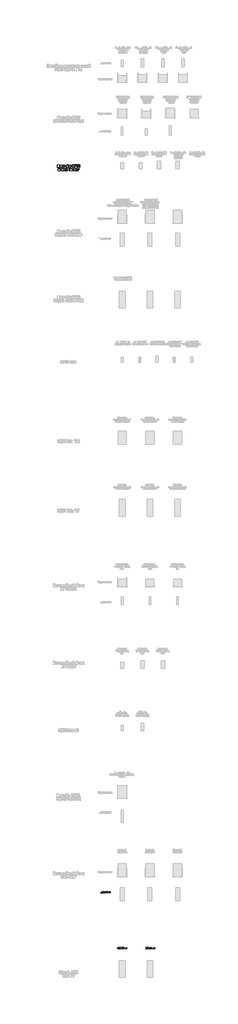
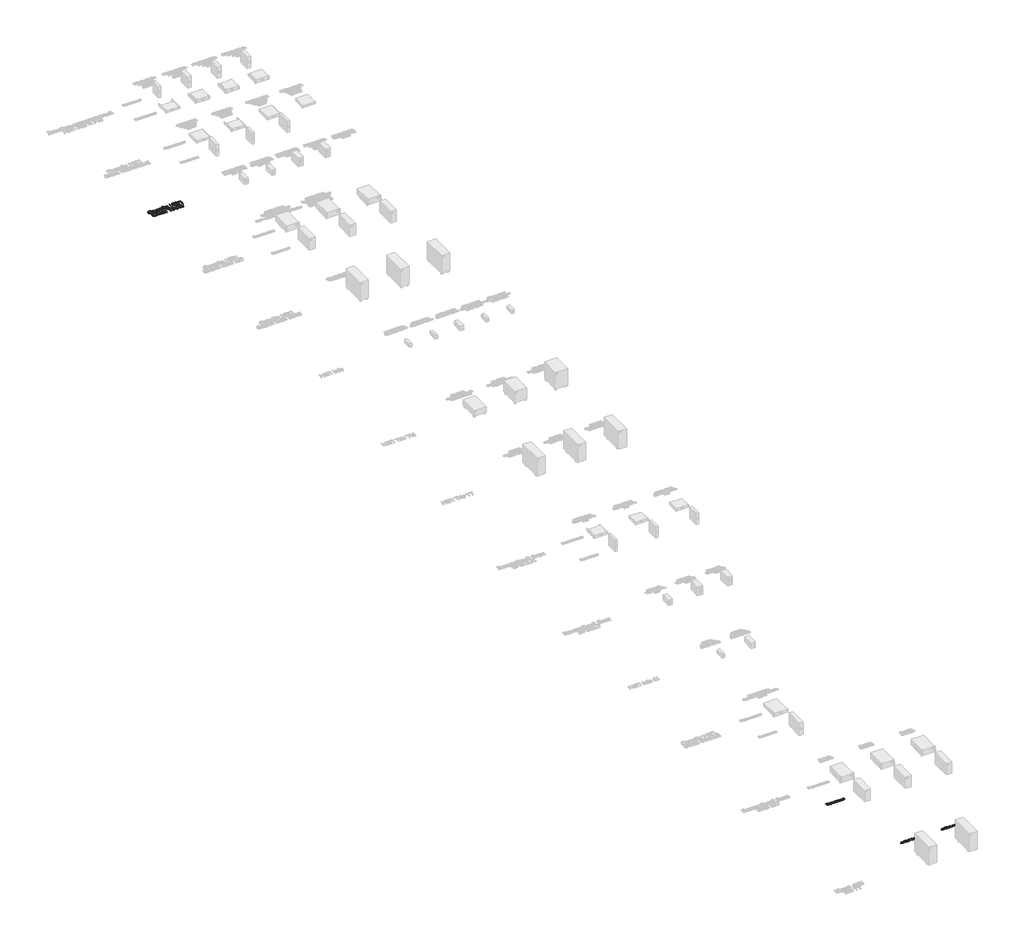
# One storey, part 9 of 74: 4 proxies.
"""IFC4 building model written with IfcOpenShell, lengths in millimetres."""

from ifc_helpers import new_model, si_unit, origin, origin_with_axes, place, context, project, spatial, polyline, outline, extrude, element, save

model = new_model("IFC4")

# Units and contexts
model_context = context("Model", 3, world=origin())
ifc_project = project(units=[si_unit("LENGTHUNIT", "METRE", prefix="MILLI")], contexts=[model_context])

# Site, building, storey
site = spatial("IfcSite", under=ifc_project)
building = spatial("IfcBuilding", under=site)
storey = spatial("IfcBuildingStorey", under=building, Name="Этаж 01", Elevation=0.0)

# Proxies
placement = place(None, origin())
element("IfcBuildingElementProxy", 1, Name="150 мм Arial", ObjectType="150 мм Arial", at=placement, inside=storey, context=model_context, shape_type="SweptSolid", body=[
    extrude(outline(polyline([(-2176.9010237, -1437.4852389), (-2171.8794345, -1404.1643271), (-2165.6024479, -1390.5457955), (-2156.8146668, -1378.9552134), (-2133.812845, -1363.0903024), (-2104.9800937, -1357.8019987), (-2085.2156335, -1360.2852022), (-2067.4929184, -1367.7348126), (-2052.7776386, -1379.6265981), (-2042.0354843, -1395.4363268), (-2035.4687907, -1414.4006437), (-2033.2798928, -1435.7561935), (-2035.5837538, -1457.3968519), (-2042.4953368, -1476.6278831), (-2053.6329642, -1492.465203), (-2068.6149584, -1503.9247272), (-2086.1859222, -1510.8776969), (-2105.0904583, -1513.1953535), (-2125.1584211, -1510.6339751), (-2142.9823038, -1502.9498399), (-2157.6607954, -1490.8373252), (-2168.292585, -1474.9908083), (-2174.7489141, -1456.7576569), (-2176.9010237, -1437.4852389)]), holes=[polyline([(-2158.0654656, -1437.6691799), (-2154.2992736, -1461.2412187), (-2143.0006979, -1479.2030571), (-2126.0183453, -1490.5706108), (-2105.2008229, -1494.3597953), (-2084.0797978, -1490.5338226), (-2067.0698541, -1479.0559043), (-2055.8540517, -1460.5422429), (-2052.115451, -1435.6090407), (-2053.7157376, -1418.9347893), (-2058.5165977, -1404.5230121), (-2066.3938709, -1392.7369927), (-2077.2233971, -1383.9400145), (-2090.2878065, -1378.4631713), (-2104.8697291, -1376.6375569), (-2125.13083, -1380.1554284), (-2142.3569044, -1390.7090432), (-2154.1383253, -1409.4848205), (-2158.0654656, -1437.6691799)])]), origin_with_axes(), (0.0, 0.0, 1.0), 20.0),
    extrude(outline(polyline([(-2009.7354451, -1400.1820046), (-1990.899887, -1400.1820046), (-1990.899887, -1442.5620104), (-1941.4565468, -1442.5620104), (-1941.4565468, -1400.1820046), (-1922.6209887, -1400.1820046), (-1922.6209887, -1510.8409087), (-1941.4565468, -1510.8409087), (-1941.4565468, -1461.3975685), (-1990.899887, -1461.3975685), (-1990.899887, -1510.8409087), (-2009.7354451, -1510.8409087), (-2009.7354451, -1400.1820046)])), origin_with_axes(), (0.0, 0.0, 1.0), 20.0),
    extrude(outline(polyline([(-1884.9498724, -1400.1820046), (-1800.1898607, -1400.1820046), (-1800.1898607, -1510.7305441), (-1819.0254188, -1510.7305441), (-1819.0254188, -1419.0175627), (-1866.1143142, -1419.0175627), (-1866.1143142, -1471.808629), (-1867.3835071, -1496.1624171), (-1874.3548709, -1506.4447189), (-1890.8359843, -1510.8409087), (-1906.1398753, -1509.8844155), (-1906.1398753, -1492.0053505), (-1897.7153776, -1492.0053505), (-1889.1989094, -1490.8465223), (-1885.7960009, -1487.1677023), (-1884.9498724, -1470.7417712), (-1884.9498724, -1400.1820046)])), origin_with_axes(), (0.0, 0.0, 1.0), 20.0),
    extrude(outline(polyline([(-1701.3031804, -1496.7142401), (-1719.5685214, -1509.4797453), (-1739.7468489, -1513.1953535), (-1755.4875997, -1510.9604703), (-1767.0988752, -1504.255821), (-1774.2587785, -1494.0746868), (-1776.645413, -1481.4103491), (-1773.0401694, -1466.5111283), (-1763.567208, -1455.6953976), (-1750.3786385, -1449.5149801), (-1734.0814661, -1446.6822887), (-1701.413545, -1440.2075656), (-1701.3031804, -1436.0137109), (-1702.5999644, -1427.6076073), (-1706.4903165, -1422.1077715), (-1715.1907257, -1418.0242813), (-1727.3124374, -1416.6631179), (-1746.3687248, -1420.2867556), (-1755.45541, -1433.1442313), (-1774.2909682, -1430.7897866), (-1766.142382, -1412.3956868), (-1749.734845, -1401.6167443), (-1724.8844163, -1397.8275598), (-1702.0573385, -1401.1752859), (-1689.1630745, -1409.5813895), (-1683.3873272, -1422.3652889), (-1682.4676222, -1438.8464022), (-1682.4676222, -1462.2804853), (-1681.511129, -1495.0035888), (-1677.7587327, -1510.8409087), (-1696.5942908, -1510.8409087), (-1701.3031804, -1496.7142401)]), holes=[polyline([(-1701.3031804, -1459.0431238), (-1731.6902332, -1464.8188711), (-1747.895435, -1467.8722917), (-1755.2346809, -1472.8386986), (-1757.8098548, -1480.0859739), (-1752.1996544, -1490.2763052), (-1735.7369351, -1494.3597953), (-1716.6806478, -1489.8532409), (-1704.3933891, -1478.9455397), (-1701.413545, -1464.3774127), (-1701.3031804, -1459.0431238)])]), origin_with_axes(), (0.0, 0.0, 1.0), 20.0),
    extrude(outline(polyline([(-1656.5687297, -1400.1820046), (-1637.7331716, -1400.1820046), (-1637.7331716, -1484.5741342), (-1591.4536166, -1400.1820046), (-1567.0998285, -1400.1820046), (-1567.0998285, -1510.8409087), (-1585.9353867, -1510.8409087), (-1585.9353867, -1426.9638138), (-1631.9206361, -1510.8409087), (-1656.5687297, -1510.8409087), (-1656.5687297, -1400.1820046)])), origin_with_axes(), (0.0, 0.0, 1.0), 20.0),
    extrude(outline(polyline([(-1595.3531657, -1360.1564435), (-1581.2264971, -1360.1564435), (-1584.2661221, -1372.2183744), (-1590.3683647, -1381.1073231), (-1599.2573134, -1386.5841663), (-1610.6570567, -1388.4097807), (-1623.0270888, -1386.5979619), (-1632.6196119, -1381.1625054), (-1639.1771084, -1372.2873523), (-1642.4420611, -1360.1564435), (-1628.3153925, -1360.1564435), (-1623.0178918, -1370.769839), (-1612.3493139, -1374.2831121), (-1600.6506665, -1370.8802036), (-1595.3531657, -1360.1564435)])), origin_with_axes(), (0.0, 0.0, 1.0), 20.0),
    extrude(outline(polyline([(-1538.8464913, -1400.1820046), (-1520.0109331, -1400.1820046), (-1520.0109331, -1442.5620104), (-1470.567593, -1442.5620104), (-1470.567593, -1400.1820046), (-1451.7320348, -1400.1820046), (-1451.7320348, -1510.8409087), (-1470.567593, -1510.8409087), (-1470.567593, -1461.3975685), (-1520.0109331, -1461.3975685), (-1520.0109331, -1510.8409087), (-1538.8464913, -1510.8409087), (-1538.8464913, -1400.1820046)])), origin_with_axes(), (0.0, 0.0, 1.0), 20.0),
    extrude(outline(polyline([(-1362.2631336, -1360.1564435), (-1343.4275755, -1360.1564435), (-1343.4275755, -1479.4973627), (-1264.5536757, -1360.1564435), (-1244.5408951, -1360.1564435), (-1244.5408951, -1510.8409087), (-1263.3764533, -1510.8409087), (-1263.3764533, -1391.8310833), (-1342.0664121, -1510.8409087), (-1362.2631336, -1510.8409087), (-1362.2631336, -1360.1564435)])), origin_with_axes(), (0.0, 0.0, 1.0), 20.0),
    extrude(outline(polyline([(-1211.5786684, -1360.1564435), (-1117.4008776, -1360.1564435), (-1117.4008776, -1378.9920016), (-1192.7431102, -1378.9920016), (-1192.7431102, -1423.7264522), (-1157.4632269, -1423.7264522), (-1126.3771983, -1427.552425), (-1115.9753349, -1433.079852), (-1107.8727339, -1442.0101874), (-1102.6580067, -1453.5064998), (-1100.9197642, -1466.7318575), (-1105.8677771, -1488.1977719), (-1120.6382392, -1504.5133384), (-1133.9095821, -1509.2590161), (-1154.0787125, -1510.8409087), (-1211.5786684, -1510.8409087), (-1211.5786684, -1360.1564435)]), holes=[polyline([(-1192.7431102, -1492.0053505), (-1152.3864554, -1492.0053505), (-1138.121831, -1490.4510491), (-1127.9223027, -1485.7881448), (-1121.7970675, -1478.0166377), (-1119.7553224, -1467.1365277), (-1124.4274237, -1452.3844597), (-1137.4320523, -1444.511785), (-1165.8141482, -1442.5620104), (-1192.7431102, -1442.5620104), (-1192.7431102, -1492.0053505)])]), origin_with_axes(), (0.0, 0.0, 1.0), 20.0),
    extrude(outline(polyline([(-1075.0208718, -1360.1564435), (-957.2986333, -1360.1564435), (-957.2986333, -1510.8409087), (-976.1341915, -1510.8409087), (-976.1341915, -1378.9920016), (-1056.1853136, -1378.9920016), (-1056.1853136, -1510.8409087), (-1075.0208718, -1510.8409087), (-1075.0208718, -1360.1564435)])), origin_with_axes(), (0.0, 0.0, 1.0), 20.0),
    extrude(outline(polyline([(-2133.3437955, -1642.0053505), (-2114.5082373, -1642.0053505), (-2108.4381844, -1660.8593028), (-2093.61254, -1672.7786794), (-2071.0245855, -1677.3220221), (-2051.3428988, -1673.8823254), (-2038.6325758, -1664.4277582), (-2034.4571152, -1651.7910116), (-2037.5841122, -1640.0371819), (-2050.3864056, -1631.4839255), (-2077.8120083, -1624.2918325), (-2107.3345384, -1615.0028121), (-2123.3557993, -1600.9865081), (-2128.634906, -1582.2613145), (-2127.0024296, -1571.2294532), (-2122.1050005, -1560.9425529), (-2114.0713775, -1552.2237496), (-2103.0303191, -1545.8961793), (-2075.1080757, -1540.7642255), (-2045.309634, -1546.1353026), (-2033.8868981, -1552.7663756), (-2025.4440063, -1561.9174402), (-2020.1005203, -1573.0182794), (-2017.9760018, -1585.4986761), (-2036.81156, -1585.4986761), (-2040.2696507, -1574.2598811), (-2047.4801378, -1566.1480831), (-2058.7465239, -1561.2368585), (-2074.3723117, -1559.5997836), (-2090.3659814, -1561.2184644), (-2101.3380619, -1566.0745067), (-2107.6840263, -1573.2206145), (-2109.7993478, -1581.7094915), (-2108.3002287, -1588.9475698), (-2103.8028713, -1594.7693024), (-2073.0479365, -1605.2907274), (-2039.7178277, -1614.7452947), (-2028.980272, -1621.5787028), (-2021.4892749, -1630.0123975), (-2017.0884865, -1639.9544084), (-2015.621557, -1651.312765), (-2017.3092157, -1662.9240405), (-2022.3721917, -1673.8455372), (-2030.6035513, -1683.2449222), (-2041.796361, -1690.2898624), (-2055.2562435, -1694.6906508), (-2070.2888215, -1696.1575802), (-2088.7427021, -1694.5756877), (-2103.93163, -1689.8300099), (-2116.0303491, -1681.9021529), (-2125.2136034, -1670.7737226), (-2131.1089124, -1657.217271), (-2133.3437955, -1642.0053505)])), origin_with_axes(), (0.0, 0.0, 1.0), 20.0),
    extrude(outline(polyline([(-1989.7226646, -1693.8031355), (-1989.7226646, -1583.1442313), (-1970.8871064, -1583.1442313), (-1970.8871064, -1601.3543901), (-1957.9376602, -1586.4367752), (-1939.5067722, -1580.7897866), (-1929.0313324, -1582.2291249), (-1920.6344259, -1586.5471398), (-1910.2601536, -1602.6787653), (-1895.5632679, -1586.2620312), (-1877.0036213, -1580.7897866), (-1862.844763, -1583.0660564), (-1852.3739217, -1589.8948659), (-1845.9037971, -1601.4601562), (-1843.7470889, -1617.9458681), (-1843.7470889, -1693.8031355), (-1862.582647, -1693.8031355), (-1862.582647, -1626.039272), (-1864.3300865, -1610.3123167), (-1870.6576568, -1602.5684007), (-1881.4182052, -1599.6253447), (-1891.622332, -1601.5107399), (-1899.9410637, -1607.1669256), (-1905.4730892, -1616.9801778), (-1907.3170977, -1631.3367727), (-1907.3170977, -1693.8031355), (-1926.1526558, -1693.8031355), (-1926.1526558, -1623.9423446), (-1930.5120575, -1605.6953976), (-1936.2648122, -1601.1428579), (-1944.804273, -1599.6253447), (-1958.7470006, -1603.6720467), (-1968.0176269, -1615.5178469), (-1970.8871064, -1637.9954368), (-1970.8871064, -1693.8031355), (-1989.7226646, -1693.8031355)])), origin_with_axes(), (0.0, 0.0, 1.0), 20.0),
    extrude(outline(polyline([(-1744.8604086, -1679.6764669), (-1763.1257496, -1692.4419721), (-1783.3040771, -1696.1575802), (-1799.044828, -1693.9226971), (-1810.6561034, -1687.2180478), (-1817.8160068, -1677.0369135), (-1820.2026412, -1664.3725759), (-1816.5973976, -1649.473355), (-1807.1244363, -1638.6576244), (-1793.9358667, -1632.4772069), (-1777.6386944, -1629.6445155), (-1744.9707732, -1623.1697924), (-1744.8604086, -1618.9759376), (-1746.1571926, -1610.5698341), (-1750.0475447, -1605.0699982), (-1758.7479539, -1600.9865081), (-1770.8696656, -1599.6253447), (-1789.925953, -1603.2489824), (-1799.0126383, -1616.1064581), (-1817.8481964, -1613.7520133), (-1809.6996102, -1595.3579136), (-1793.2920733, -1584.5789711), (-1768.4416445, -1580.7897866), (-1745.6145667, -1584.1375127), (-1732.7203027, -1592.5436163), (-1726.9445554, -1605.3275156), (-1726.0248504, -1621.808629), (-1726.0248504, -1645.2427121), (-1725.0683572, -1677.9658156), (-1721.3159609, -1693.8031355), (-1740.1515191, -1693.8031355), (-1744.8604086, -1679.6764669)]), holes=[polyline([(-1744.8604086, -1642.0053505), (-1775.2474614, -1647.7810979), (-1791.4526633, -1650.8345184), (-1798.7919091, -1655.8009254), (-1801.367083, -1663.0482007), (-1795.7568826, -1673.2385319), (-1779.2941633, -1677.3220221), (-1760.237876, -1672.8154676), (-1747.9506173, -1661.9077665), (-1744.9707732, -1647.3396395), (-1744.8604086, -1642.0053505)])]), origin_with_axes(), (0.0, 0.0, 1.0), 20.0),
    extrude(outline(polyline([(-1700.125958, -1693.8031355), (-1700.125958, -1543.1186702), (-1681.2903998, -1543.1186702), (-1681.2903998, -1693.8031355), (-1700.125958, -1693.8031355)])), origin_with_axes(), (0.0, 0.0, 1.0), 20.0),
    extrude(outline(polyline([(-1653.0370626, -1693.8031355), (-1653.0370626, -1543.1186702), (-1634.2015044, -1543.1186702), (-1634.2015044, -1693.8031355), (-1653.0370626, -1693.8031355)])), origin_with_axes(), (0.0, 0.0, 1.0), 20.0),
    extrude(outline(polyline([(-1507.0614869, -1693.8031355), (-1507.0614869, -1561.9542284), (-1556.5048271, -1561.9542284), (-1556.5048271, -1543.1186702), (-1438.7825886, -1543.1186702), (-1438.7825886, -1561.9542284), (-1488.2259288, -1561.9542284), (-1488.2259288, -1693.8031355), (-1507.0614869, -1693.8031355)])), origin_with_axes(), (0.0, 0.0, 1.0), 20.0),
    extrude(outline(polyline([(-1424.65592, -1638.4736834), (-1420.5816269, -1611.7930417), (-1408.3587476, -1593.040257), (-1393.2571917, -1583.8524042), (-1375.1757916, -1580.7897866), (-1355.3883388, -1584.5191903), (-1339.5832086, -1595.7074015), (-1329.2227319, -1613.4715033), (-1325.7692397, -1636.928579), (-1327.29595, -1655.9572752), (-1331.8760808, -1670.4426288), (-1339.376275, -1681.2905491), (-1349.6631753, -1689.4069456), (-1361.881456, -1694.4699216), (-1375.1757916, -1696.1575802), (-1395.2023677, -1692.4419721), (-1410.9891039, -1681.2951476), (-1421.239216, -1663.1585653), (-1424.65592, -1638.4736834)]), holes=[polyline([(-1405.8203618, -1638.4368952), (-1403.640661, -1655.4836271), (-1397.1015585, -1667.6283315), (-1387.2607152, -1674.8985994), (-1375.1757916, -1677.3220221), (-1363.1460504, -1674.8848039), (-1353.3236011, -1667.5731492), (-1346.7844987, -1655.2674965), (-1344.6047978, -1637.848284), (-1346.7982942, -1621.2981927), (-1353.3787834, -1609.3190353), (-1363.2150283, -1602.0487673), (-1375.1757916, -1599.6253447), (-1387.2607152, -1602.0395703), (-1397.1015585, -1609.2822471), (-1403.640661, -1621.3993603), (-1405.8203618, -1638.4368952)])]), origin_with_axes(), (0.0, 0.0, 1.0), 20.0),
    extrude(outline(polyline([(-1286.2219252, -1693.8031355), (-1319.8831278, -1583.1442313), (-1300.3118056, -1583.1442313), (-1281.2187301, -1647.7075215), (-1275.5165591, -1670.7737226), (-1270.8444578, -1648.5536501), (-1255.6509314, -1583.1442313), (-1233.2101297, -1583.1442313), (-1218.0901797, -1648.3697091), (-1213.9331131, -1668.4928542), (-1207.9734248, -1647.2660631), (-1188.8435611, -1583.1442313), (-1169.1986625, -1583.1442313), (-1203.1173825, -1693.8031355), (-1225.889278, -1693.8031355), (-1240.3470404, -1628.9087515), (-1244.5408951, -1608.6752418), (-1263.1925123, -1693.8031355), (-1286.2219252, -1693.8031355)])), origin_with_axes(), (0.0, 0.0, 1.0), 20.0),
    extrude(outline(polyline([(-1078.7732681, -1660.8409087), (-1060.305592, -1663.1953535), (-1066.9596576, -1677.1104899), (-1077.5776516, -1687.5123534), (-1091.9204509, -1693.9962735), (-1109.7489321, -1696.1575802), (-1131.849443, -1692.4281765), (-1148.8547882, -1681.2399653), (-1159.69811, -1663.3195136), (-1163.3125506, -1639.3933884), (-1159.6613218, -1614.6625213), (-1148.7076354, -1596.1672539), (-1131.9322164, -1584.6341534), (-1110.8157899, -1580.7897866), (-1090.3569524, -1584.6249564), (-1074.0091963, -1596.1304657), (-1063.2900346, -1614.5889449), (-1059.7169808, -1639.2830238), (-1059.8273454, -1644.3597953), (-1144.4769925, -1644.3597953), (-1141.2166383, -1658.4588728), (-1133.6428677, -1668.823948), (-1122.7121739, -1675.1975036), (-1109.3810501, -1677.3220221), (-1090.913374, -1673.3856847), (-1078.7732681, -1660.8409087)]), holes=[polyline([(-1144.4769925, -1625.5242372), (-1078.5525389, -1625.5242372), (-1081.1001217, -1615.5730292), (-1086.0941198, -1608.4545126), (-1097.0753974, -1601.8326367), (-1110.8893663, -1599.6253447), (-1123.5858937, -1601.3865798), (-1134.0843261, -1606.6702849), (-1141.3821852, -1614.9062431), (-1144.4769925, -1625.5242372)])]), origin_with_axes(), (0.0, 0.0, 1.0), 20.0),
    extrude(outline(polyline([(-1040.8814226, -1693.8031355), (-1040.8814226, -1583.1442313), (-1024.4003092, -1583.1442313), (-1024.4003092, -1599.5149801), (-1012.7016618, -1584.4318183), (-1000.9294379, -1580.7897866), (-982.0203034, -1586.6023221), (-988.3110855, -1603.4881057), (-1001.5548373, -1599.6253447), (-1012.2050211, -1603.3409529), (-1018.9924439, -1613.6416487), (-1022.0458645, -1635.640992), (-1022.0458645, -1693.8031355), (-1040.8814226, -1693.8031355)])), origin_with_axes(), (0.0, 0.0, 1.0), 20.0),
])
element("IfcBuildingElementProxy", 2, Name="80 мм Arial", ObjectType="80 мм Arial", at=placement, inside=storey, context=model_context, shape_type="SweptSolid", body=[
    extrude(outline(polyline([(107.354428, -40833.7549279), (107.354428, -40753.3898798), (138.0210711, -40753.3898798), (153.0404667, -40755.7541347), (161.9088753, -40763.023483), (165.1168063, -40773.3045585), (162.419005, -40782.692907), (154.26674, -40789.8052922), (164.1652182, -40797.3002747), (167.6282141, -40809.7984524), (165.2639591, -40820.5994678), (159.4072778, -40828.290654), (150.6664016, -40832.3716916), (137.7856266, -40833.7549279), (107.354428, -40833.7549279)]), holes=[polyline([(117.400059, -40786.0381806), (135.7451078, -40786.0381806), (146.4578315, -40785.1748842), (152.9031241, -40781.4568235), (155.0711753, -40774.9134291), (153.0502769, -40768.3602244), (147.2622668, -40764.4852008), (134.3520613, -40763.4355108), (117.400059, -40763.4355108), (117.400059, -40786.0381806)]), polyline([(117.400059, -40823.7092969), (138.0014507, -40823.7092969), (145.4571925, -40823.3168894), (151.7651425, -40821.1292178), (155.9442819, -40816.665583), (157.5825831, -40809.8965542), (155.6597865, -40802.0876458), (149.4303181, -40797.4278072), (137.0204321, -40796.0838116), (117.400059, -40796.0838116), (117.400059, -40823.7092969)])]), origin_with_axes(), (0.0, 0.0, 1.0), 20.0),
    extrude(outline(polyline([(221.5057586, -40816.1750736), (231.3551858, -40817.4307775), (222.1434207, -40830.3998441), (204.9854044, -40835.0106318), (193.1984653, -40833.0216165), (184.1289478, -40827.0545705), (178.3458429, -40817.4969963), (176.4181412, -40804.7363961), (178.3654633, -40791.5466003), (184.2074293, -40781.6824578), (193.1543195, -40775.5314708), (204.4164136, -40773.4811418), (215.3277936, -40775.5265657), (224.0465969, -40781.6628374), (229.7634831, -40791.5073596), (231.6691118, -40804.677535), (231.6102507, -40807.3851465), (186.4637722, -40807.3851465), (192.2419721, -40820.4326946), (205.1816082, -40824.9650008), (215.0310354, -40822.8656208), (221.5057586, -40816.1750736)]), holes=[polyline([(186.4637722, -40797.3395155), (221.6234808, -40797.3395155), (217.6013043, -40788.2356624), (204.3771729, -40783.5267728), (192.0065276, -40787.2840743), (186.4637722, -40797.3395155)])]), origin_with_axes(), (0.0, 0.0, 1.0), 20.0),
    extrude(outline(polyline([(241.7147428, -40856.3575977), (241.7147428, -40774.7368457), (251.7603738, -40774.7368457), (251.7603738, -40784.586273), (258.7059859, -40776.2574246), (268.0845242, -40773.4811418), (280.8181464, -40777.3659757), (289.1371845, -40788.3141439), (291.9428979, -40803.7946182), (288.7742076, -40820.0697177), (279.5722527, -40831.1552285), (266.8680611, -40835.0106318), (258.1271849, -40832.4305527), (251.7603738, -40825.9067787), (251.7603738, -40856.3575977), (241.7147428, -40856.3575977)]), holes=[polyline([(251.7603738, -40804.7167758), (256.1062865, -40820.0206668), (266.652237, -40824.9650008), (277.4140116, -40819.8440834), (281.8972669, -40803.9712016), (277.5219237, -40788.6280698), (267.0642648, -40783.5267728), (256.4005921, -40788.951806), (251.7603738, -40804.7167758)])]), origin_with_axes(), (0.0, 0.0, 1.0), 20.0),
    extrude(outline(polyline([(298.2214173, -40774.7368457), (345.9381646, -40774.7368457), (345.9381646, -40784.7824767), (327.1026064, -40784.7824767), (327.1026064, -40833.7549279), (317.0569754, -40833.7549279), (317.0569754, -40784.7824767), (298.2214173, -40784.7824767), (298.2214173, -40774.7368457)])), origin_with_axes(), (0.0, 0.0, 1.0), 20.0),
    extrude(outline(polyline([(354.7280917, -40774.7368457), (364.7737228, -40774.7368457), (364.7737228, -40819.7459815), (389.4561521, -40774.7368457), (402.4448391, -40774.7368457), (402.4448391, -40833.7549279), (392.399208, -40833.7549279), (392.399208, -40789.0204773), (367.8737417, -40833.7549279), (354.7280917, -40833.7549279), (354.7280917, -40774.7368457)])), origin_with_axes(), (0.0, 0.0, 1.0), 20.0),
    extrude(outline(polyline([(417.5132856, -40774.7368457), (427.5589166, -40774.7368457), (427.5589166, -40799.8509232), (434.2887046, -40798.0458489), (439.8020294, -40787.5293289), (444.3833865, -40778.4549064), (448.4251834, -40775.5020402), (455.7730131, -40774.7368457), (457.6958096, -40774.7368457), (457.6958096, -40784.8413378), (454.9881982, -40784.7824767), (450.0831049, -40785.8419769), (446.6299192, -40792.4540426), (442.5783122, -40799.6056686), (436.8982142, -40803.1079052), (443.2355947, -40807.0172645), (449.455253, -40815.2529161), (460.2072174, -40833.7549279), (448.7881603, -40833.7549279), (438.2520199, -40815.6453236), (432.9545192, -40807.9835679), (427.5589166, -40806.1294426), (427.5589166, -40833.7549279), (417.5132856, -40833.7549279), (417.5132856, -40774.7368457)])), origin_with_axes(), (0.0, 0.0, 1.0), 20.0),
    extrude(outline(polyline([(504.1568531, -40826.2207046), (494.4153379, -40833.0289741), (483.6535632, -40835.0106318), (469.0658158, -40830.2428811), (463.974329, -40818.0586294), (465.8971256, -40810.1123783), (470.9493717, -40804.3439887), (477.9832754, -40801.047766), (486.6751007, -40799.5369973), (504.097992, -40796.0838116), (504.1568531, -40793.8470891), (501.3903805, -40786.430588), (490.2852493, -40783.5267728), (480.1218961, -40785.4593796), (475.2756639, -40792.3167), (465.2300329, -40791.0609961), (469.5759455, -40781.2508096), (478.3266319, -40775.5020402), (491.5801939, -40773.4811418), (503.7546354, -40775.2665958), (510.6315762, -40779.749851), (513.7119748, -40786.5679307), (514.2024841, -40795.3578578), (514.2024841, -40807.8560354), (514.7126138, -40825.3083573), (516.7138919, -40833.7549279), (506.6682608, -40833.7549279), (504.1568531, -40826.2207046)]), holes=[polyline([(504.1568531, -40806.1294426), (487.9504249, -40809.2098412), (479.3076506, -40810.8383322), (475.3933862, -40813.4870825), (474.01996, -40817.352296), (477.0120669, -40822.7871394), (485.7921839, -40824.9650008), (495.9555371, -40822.5615051), (502.5087417, -40816.7440644), (504.097992, -40808.9743967), (504.1568531, -40806.1294426)])]), origin_with_axes(), (0.0, 0.0, 1.0), 20.0),
    extrude(outline(polyline([(533.0380423, -40774.7368457), (578.2433818, -40774.7368457), (578.2433818, -40833.6960668), (568.1977508, -40833.6960668), (568.1977508, -40784.7824767), (543.0836733, -40784.7824767), (543.0836733, -40812.9377121), (542.4067704, -40825.926399), (538.6887097, -40831.4102933), (529.8987826, -40833.7549279), (521.7367074, -40833.2447982), (521.7367074, -40823.7092969), (526.2297728, -40823.7092969), (530.7718892, -40823.0912551), (532.5867737, -40821.1292178), (533.0380423, -40812.3687213), (533.0380423, -40774.7368457)])), origin_with_axes(), (0.0, 0.0, 1.0), 20.0),
    extrude(outline(polyline([(593.3118283, -40774.7368457), (603.3574594, -40774.7368457), (603.3574594, -40796.0838116), (614.9334795, -40796.0838116), (632.3956115, -40801.1164373), (636.9867788, -40807.1031036), (638.5171679, -40814.9978512), (633.3079589, -40828.2514133), (626.5364776, -40832.3790492), (616.6404519, -40833.7549279), (593.3118283, -40833.7549279), (593.3118283, -40774.7368457)]), holes=[polyline([(603.3574594, -40823.7092969), (612.7359977, -40823.7092969), (624.8515781, -40821.6001068), (628.4715369, -40815.0174716), (625.793356, -40808.8370541), (613.9328404, -40806.1294426), (603.3574594, -40806.1294426), (603.3574594, -40823.7092969)])]), origin_with_axes(), (0.0, 0.0, 1.0), 20.0),
    extrude(outline(polyline([(651.0742067, -40774.7368457), (661.1198377, -40774.7368457), (661.1198377, -40797.3395155), (687.4896191, -40797.3395155), (687.4896191, -40774.7368457), (697.5352501, -40774.7368457), (697.5352501, -40833.7549279), (687.4896191, -40833.7549279), (687.4896191, -40807.3851465), (661.1198377, -40807.3851465), (661.1198377, -40833.7549279), (651.0742067, -40833.7549279), (651.0742067, -40774.7368457)])), origin_with_axes(), (0.0, 0.0, 1.0), 20.0),
    extrude(outline(polyline([(710.0922889, -40804.2458868), (712.2652452, -40790.0162112), (718.7841142, -40780.0147261), (726.8382773, -40775.1145379), (736.4816907, -40773.4811418), (747.0349989, -40775.4701571), (755.4644016, -40781.4372031), (760.9899892, -40790.9113907), (762.8318517, -40803.4218311), (759.5748698, -40821.295991), (750.0884194, -40831.4102933), (736.4816907, -40835.0106318), (725.8008501, -40833.0289741), (717.3812575, -40827.0840011), (711.914531, -40817.4111571), (710.0922889, -40804.2458868)]), holes=[polyline([(720.1379199, -40804.2262664), (724.7879483, -40819.7950325), (736.4816907, -40824.9650008), (748.1361923, -40819.7656019), (752.7862207, -40803.9123405), (748.1067617, -40788.6967411), (736.4816907, -40783.5267728), (724.7879483, -40788.6771208), (720.1379199, -40804.2262664)])]), origin_with_axes(), (0.0, 0.0, 1.0), 20.0),
])
element("IfcBuildingElementProxy", 3, Name="80 мм Arial", ObjectType="80 мм Arial", at=placement, inside=storey, context=model_context, shape_type="SweptSolid", body=[
    extrude(outline(polyline([(1126.5670786, -43868.2576646), (1126.5670786, -43849.4221065), (1090.1516662, -43849.4221065), (1090.1516662, -43839.3764755), (1129.0784863, -43789.1483204), (1136.6127096, -43789.1483204), (1136.6127096, -43839.3764755), (1146.6583406, -43839.3764755), (1146.6583406, -43849.4221065), (1136.6127096, -43849.4221065), (1136.6127096, -43868.2576646), (1126.5670786, -43868.2576646)]), holes=[polyline([(1126.5670786, -43839.3764755), (1126.5670786, -43808.3370452), (1102.5125012, -43839.3764755), (1126.5670786, -43839.3764755)])]), origin_with_axes(), (0.0, 0.0, 1.0), 20.0),
    extrude(outline(polyline([(1151.6811561, -43868.2576646), (1173.1458443, -43838.5916605), (1152.93686, -43809.2395824), (1165.0230098, -43809.2395824), (1174.7743352, -43823.366251), (1179.3262618, -43830.0371779), (1183.2699568, -43824.5827142), (1194.3750879, -43809.2395824), (1206.4612378, -43809.2395824), (1185.2319941, -43838.5916605), (1205.6764228, -43868.2576646), (1193.590273, -43868.2576646), (1181.2882991, -43850.4227455), (1179.0319562, -43847.1657636), (1163.7673059, -43868.2576646), (1151.6811561, -43868.2576646)])), origin_with_axes(), (0.0, 0.0, 1.0), 20.0),
    extrude(outline(polyline([(1263.4388012, -43858.2120336), (1263.4388012, -43868.2576646), (1210.6992383, -43868.2576646), (1211.7783589, -43861.3316729), (1217.8802949, -43850.6680002), (1230.456954, -43839.0233087), (1247.8013638, -43822.2871305), (1252.1374663, -43810.9073141), (1248.0466185, -43801.695549), (1237.3633253, -43797.9382475), (1226.2287636, -43801.6072573), (1222.0005732, -43811.7509902), (1211.9549422, -43810.4952863), (1214.390321, -43800.7782965), (1219.6559386, -43793.6806266), (1227.4771099, -43789.339619), (1237.5791495, -43787.8926165), (1247.7547654, -43789.5014871), (1255.5612214, -43794.3280989), (1260.5276283, -43801.538586), (1262.1830973, -43810.2990826), (1260.3976433, -43819.8247737), (1254.4624805, -43829.674201), (1240.0709368, -43843.4378927), (1228.5145371, -43853.1009264), (1223.9822309, -43858.2120336), (1263.4388012, -43858.2120336)])), origin_with_axes(), (0.0, 0.0, 1.0), 20.0),
    extrude(outline(polyline([(1273.4844322, -43828.7226129), (1276.4372983, -43805.6000032), (1285.2076051, -43792.2679597), (1299.8542136, -43787.8926165), (1311.5871967, -43790.4825058), (1319.6904108, -43797.9480577), (1324.3993003, -43809.8380038), (1326.223995, -43828.7226129), (1323.3005594, -43851.7471207), (1314.5596832, -43865.1085947), (1299.8542136, -43869.5133685), (1289.4161751, -43867.6003821), (1281.4895444, -43861.861423), (1275.4857102, -43848.2694096), (1273.4844322, -43828.7226129)]), holes=[polyline([(1283.5300632, -43828.7029925), (1284.7072856, -43844.5047505), (1288.2389527, -43853.6502969), (1299.8542136, -43859.4677375), (1311.4694745, -43853.6306765), (1315.0011416, -43844.480225), (1316.178364, -43828.7029925), (1315.0403824, -43813.2568538), (1311.6264374, -43804.0401835), (1306.3779876, -43799.4637315), (1299.7364914, -43797.9382475), (1288.3959157, -43803.3142297), (1284.7465263, -43813.1047959), (1283.5300632, -43828.7029925)])]), origin_with_axes(), (0.0, 0.0, 1.0), 20.0),
    extrude(outline(polyline([(1331.2468105, -43868.2576646), (1352.7114987, -43838.5916605), (1332.5025144, -43809.2395824), (1344.5886642, -43809.2395824), (1354.3399896, -43823.366251), (1358.8919162, -43830.0371779), (1362.8356112, -43824.5827142), (1373.9407423, -43809.2395824), (1386.0268921, -43809.2395824), (1364.7976485, -43838.5916605), (1385.2420772, -43868.2576646), (1373.1559274, -43868.2576646), (1360.8539535, -43850.4227455), (1358.5976106, -43847.1657636), (1343.3329603, -43868.2576646), (1331.2468105, -43868.2576646)])), origin_with_axes(), (0.0, 0.0, 1.0), 20.0),
    extrude(outline(polyline([(1391.5205966, -43799.1939514), (1391.5205966, -43789.1483204), (1444.2601594, -43789.1483204), (1444.2601594, -43797.2711548), (1429.299625, -43818.8829958), (1417.8511373, -43846.4201894), (1414.1232664, -43868.2576646), (1404.0776354, -43868.2576646), (1408.0703813, -43845.5961337), (1419.0283597, -43819.9817367), (1434.2145284, -43799.1939514), (1391.5205966, -43799.1939514)])), origin_with_axes(), (0.0, 0.0, 1.0), 20.0),
    extrude(outline(polyline([(1478.8508772, -43868.2576646), (1510.9301871, -43787.8926165), (1519.4846698, -43787.8926165), (1551.5639798, -43868.2576646), (1540.949358, -43868.2576646), (1531.747403, -43843.1435871), (1498.6478336, -43843.1435871), (1489.465499, -43868.2576646), (1478.8508772, -43868.2576646)]), holes=[polyline([(1502.3364637, -43833.0979561), (1528.0783932, -43833.0979561), (1520.8384756, -43813.3402404), (1515.2074285, -43797.9382475), (1510.2042333, -43811.6136476), (1502.3364637, -43833.0979561)])]), origin_with_axes(), (0.0, 0.0, 1.0), 20.0),
    extrude(outline(polyline([(1557.2735084, -43809.2395824), (1567.3191394, -43809.2395824), (1567.3191394, -43820.5605377), (1568.1333849, -43831.1751595), (1572.0476493, -43836.9239288), (1579.817317, -43839.3764755), (1593.6889208, -43836.3353176), (1593.6889208, -43809.2395824), (1603.7345518, -43809.2395824), (1603.7345518, -43868.2576646), (1593.6889208, -43868.2576646), (1593.6889208, -43845.9689208), (1577.1293259, -43849.4221065), (1565.7396993, -43845.821768), (1559.0393419, -43837.0024103), (1557.2735084, -43825.5244921), (1557.2735084, -43809.2395824)])), origin_with_axes(), (0.0, 0.0, 1.0), 20.0),
])
element("IfcBuildingElementProxy", 4, Name="80 мм Arial", ObjectType="80 мм Arial", at=placement, inside=storey, context=model_context, shape_type="SweptSolid", body=[
    extrude(outline(polyline([(2626.5670786, -43868.2576646), (2626.5670786, -43849.4221065), (2590.1516662, -43849.4221065), (2590.1516662, -43839.3764755), (2629.0784863, -43789.1483204), (2636.6127096, -43789.1483204), (2636.6127096, -43839.3764755), (2646.6583406, -43839.3764755), (2646.6583406, -43849.4221065), (2636.6127096, -43849.4221065), (2636.6127096, -43868.2576646), (2626.5670786, -43868.2576646)]), holes=[polyline([(2626.5670786, -43839.3764755), (2626.5670786, -43808.3370452), (2602.5125012, -43839.3764755), (2626.5670786, -43839.3764755)])]), origin_with_axes(), (0.0, 0.0, 1.0), 20.0),
    extrude(outline(polyline([(2651.6811561, -43868.2576646), (2673.1458443, -43838.5916605), (2652.93686, -43809.2395824), (2665.0230098, -43809.2395824), (2674.7743352, -43823.366251), (2679.3262618, -43830.0371779), (2683.2699568, -43824.5827142), (2694.3750879, -43809.2395824), (2706.4612378, -43809.2395824), (2685.2319941, -43838.5916605), (2705.6764228, -43868.2576646), (2693.590273, -43868.2576646), (2681.2882991, -43850.4227455), (2679.0319562, -43847.1657636), (2663.7673059, -43868.2576646), (2651.6811561, -43868.2576646)])), origin_with_axes(), (0.0, 0.0, 1.0), 20.0),
    extrude(outline(polyline([(2763.4388012, -43858.2120336), (2763.4388012, -43868.2576646), (2710.6992383, -43868.2576646), (2711.7783589, -43861.3316729), (2717.8802949, -43850.6680002), (2730.456954, -43839.0233087), (2747.8013638, -43822.2871305), (2752.1374663, -43810.9073141), (2748.0466185, -43801.695549), (2737.3633253, -43797.9382475), (2726.2287636, -43801.6072573), (2722.0005732, -43811.7509902), (2711.9549422, -43810.4952863), (2714.390321, -43800.7782965), (2719.6559386, -43793.6806266), (2727.4771099, -43789.339619), (2737.5791495, -43787.8926165), (2747.7547654, -43789.5014871), (2755.5612214, -43794.3280989), (2760.5276283, -43801.538586), (2762.1830973, -43810.2990826), (2760.3976433, -43819.8247737), (2754.4624805, -43829.674201), (2740.0709368, -43843.4378927), (2728.5145371, -43853.1009264), (2723.9822309, -43858.2120336), (2763.4388012, -43858.2120336)])), origin_with_axes(), (0.0, 0.0, 1.0), 20.0),
    extrude(outline(polyline([(2773.4844322, -43828.7226129), (2776.4372983, -43805.6000032), (2785.2076051, -43792.2679597), (2799.8542136, -43787.8926165), (2811.5871967, -43790.4825058), (2819.6904108, -43797.9480577), (2824.3993003, -43809.8380038), (2826.223995, -43828.7226129), (2823.3005594, -43851.7471207), (2814.5596832, -43865.1085947), (2799.8542136, -43869.5133685), (2789.4161751, -43867.6003821), (2781.4895444, -43861.861423), (2775.4857102, -43848.2694096), (2773.4844322, -43828.7226129)]), holes=[polyline([(2783.5300632, -43828.7029925), (2784.7072856, -43844.5047505), (2788.2389527, -43853.6502969), (2799.8542136, -43859.4677375), (2811.4694745, -43853.6306765), (2815.0011416, -43844.480225), (2816.178364, -43828.7029925), (2815.0403824, -43813.2568538), (2811.6264374, -43804.0401835), (2806.3779876, -43799.4637315), (2799.7364914, -43797.9382475), (2788.3959157, -43803.3142297), (2784.7465263, -43813.1047959), (2783.5300632, -43828.7029925)])]), origin_with_axes(), (0.0, 0.0, 1.0), 20.0),
    extrude(outline(polyline([(2831.2468105, -43868.2576646), (2852.7114987, -43838.5916605), (2832.5025144, -43809.2395824), (2844.5886642, -43809.2395824), (2854.3399896, -43823.366251), (2858.8919162, -43830.0371779), (2862.8356112, -43824.5827142), (2873.9407423, -43809.2395824), (2886.0268921, -43809.2395824), (2864.7976485, -43838.5916605), (2885.2420772, -43868.2576646), (2873.1559274, -43868.2576646), (2860.8539535, -43850.4227455), (2858.5976106, -43847.1657636), (2843.3329603, -43868.2576646), (2831.2468105, -43868.2576646)])), origin_with_axes(), (0.0, 0.0, 1.0), 20.0),
    extrude(outline(polyline([(2892.7763005, -43848.1664026), (2902.8219315, -43846.9106987), (2907.3346173, -43856.495251), (2915.8891, -43859.4677375), (2924.0217446, -43857.5547511), (2929.5350694, -43852.4436439), (2932.8214819, -43843.7125779), (2934.2733895, -43832.0580763), (2934.2145284, -43830.096039), (2926.1799856, -43837.7087437), (2915.1631462, -43840.6321793), (2906.0028845, -43838.8467254), (2898.377917, -43833.4903635), (2893.2349267, -43825.2154712), (2891.5205966, -43814.6744258), (2893.3183133, -43803.7851187), (2898.7114633, -43795.2502564), (2906.8122249, -43789.7320265), (2916.732776, -43787.8926165), (2931.0458382, -43792.0913763), (2940.8952655, -43804.0598039), (2944.2601594, -43826.5447515), (2940.9050756, -43850.9426854), (2930.9281159, -43864.7652382), (2915.418211, -43869.5133685), (2906.8293927, -43868.1129644), (2899.9769774, -43863.911752), (2892.7763005, -43848.1664026)]), holes=[polyline([(2934.2145284, -43814.4389813), (2929.878426, -43802.3920722), (2918.361267, -43797.9382475), (2906.2751172, -43802.7354287), (2901.5662276, -43815.1649351), (2906.0200523, -43826.2994968), (2918.0865818, -43830.5865483), (2929.6724121, -43826.2994968), (2934.2145284, -43814.4389813)])]), origin_with_axes(), (0.0, 0.0, 1.0), 20.0),
    extrude(outline(polyline([(2978.8508772, -43868.2576646), (3010.9301871, -43787.8926165), (3019.4846698, -43787.8926165), (3051.5639798, -43868.2576646), (3040.949358, -43868.2576646), (3031.747403, -43843.1435871), (2998.6478336, -43843.1435871), (2989.465499, -43868.2576646), (2978.8508772, -43868.2576646)]), holes=[polyline([(3002.3364637, -43833.0979561), (3028.0783932, -43833.0979561), (3020.8384756, -43813.3402404), (3015.2074285, -43797.9382475), (3010.2042333, -43811.6136476), (3002.3364637, -43833.0979561)])]), origin_with_axes(), (0.0, 0.0, 1.0), 20.0),
    extrude(outline(polyline([(3057.2735084, -43809.2395824), (3067.3191394, -43809.2395824), (3067.3191394, -43820.5605377), (3068.1333849, -43831.1751595), (3072.0476493, -43836.9239288), (3079.817317, -43839.3764755), (3093.6889208, -43836.3353176), (3093.6889208, -43809.2395824), (3103.7345518, -43809.2395824), (3103.7345518, -43868.2576646), (3093.6889208, -43868.2576646), (3093.6889208, -43845.9689208), (3077.1293259, -43849.4221065), (3065.7396993, -43845.821768), (3059.0393419, -43837.0024103), (3057.2735084, -43825.5244921), (3057.2735084, -43809.2395824)])), origin_with_axes(), (0.0, 0.0, 1.0), 20.0),
])

save(model, "model.ifc")
